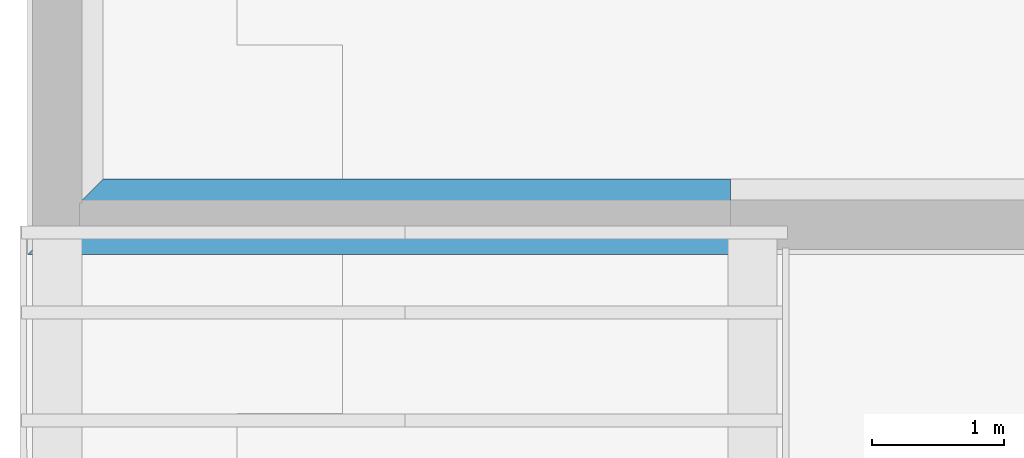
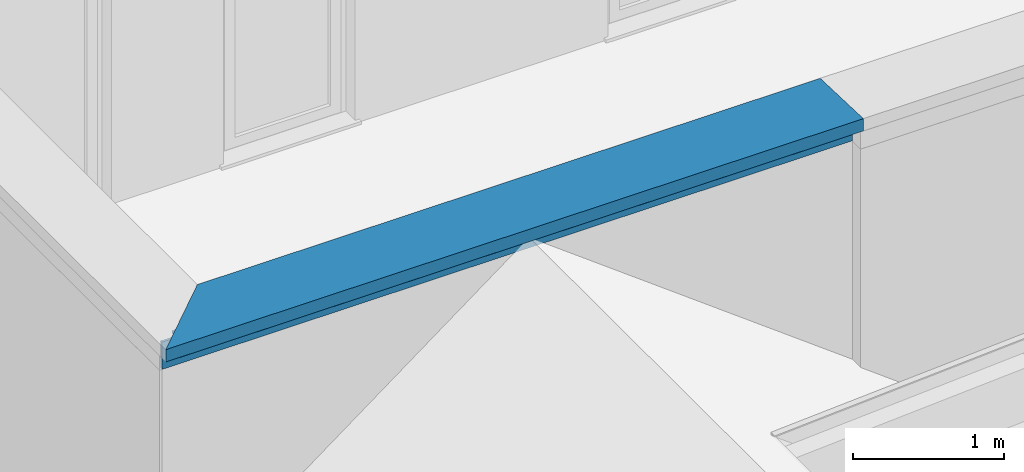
# One storey, part 2 of 15: 1 beam.
"""IFC4 building model written with IfcOpenShell, lengths in metres."""

from ifc_helpers import new_model, entity, si_unit, converted_unit, derived_unit, direction, frame, origin_with_axes, place, context, subcontext, project, spatial, triangles, material, constituent, constituent_set, type_object, element, save


model = new_model("IFC4")

# Units and contexts
model_context = context("Model", 3, precision=1e-05, world=origin_with_axes(), true_north=direction((-0.526213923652, 0.850352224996)))
body_context = subcontext(model_context, "Body", "Model", "MODEL_VIEW")
ifc_project = project(units=[si_unit("LENGTHUNIT", "METRE"), si_unit("AREAUNIT", "SQUARE_METRE"), si_unit("VOLUMEUNIT", "CUBIC_METRE"), converted_unit("PLANEANGLEUNIT", "DEGREE", entity("IfcPlaneAngleMeasure", 0.0174532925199), si_unit("PLANEANGLEUNIT", "RADIAN"), dimensions=[0, 0, 0, 0, 0, 0, 0]), si_unit("SOLIDANGLEUNIT", "STERADIAN"), converted_unit("TIMEUNIT", "Year", entity("IfcTimeMeasure", 31556926.0), si_unit("TIMEUNIT", "SECOND"), dimensions=[0, 0, 1, 0, 0, 0, 0]), si_unit("MASSUNIT", "GRAM", prefix="KILO"), si_unit("THERMODYNAMICTEMPERATUREUNIT", "DEGREE_CELSIUS"), si_unit("LUMINOUSINTENSITYUNIT", "LUMEN"), si_unit("ENERGYUNIT", "JOULE", prefix="MEGA"), derived_unit("THERMALCONDUCTANCEUNIT", [(si_unit("POWERUNIT", "WATT"), 1), (si_unit("LENGTHUNIT", "METRE"), -1), (si_unit("THERMODYNAMICTEMPERATUREUNIT", "KELVIN"), -1)]), derived_unit("SPECIFICHEATCAPACITYUNIT", [(si_unit("ENERGYUNIT", "JOULE"), 1), (si_unit("MASSUNIT", "GRAM", prefix="KILO"), -1), (si_unit("THERMODYNAMICTEMPERATUREUNIT", "KELVIN"), -1)]), derived_unit("MASSDENSITYUNIT", [(si_unit("MASSUNIT", "GRAM", prefix="KILO"), 1), (si_unit("VOLUMEUNIT", "CUBIC_METRE"), -1)])], contexts=[model_context])

# Site, building, storey, space
site_placement = place(None, origin_with_axes())
site = spatial("IfcSite", under=ifc_project, at=site_placement, Name="Gelände", CompositionType="ELEMENT")
building_placement = place(site_placement, origin_with_axes())
building = spatial("IfcBuilding", under=site, at=building_placement, Name="Haus vom Nikolaus", CompositionType="ELEMENT")
storey_placement = place(building_placement, frame((0.0, 0.0, 3.75), z_axis=(0.0, 0.0, 1.0), x_axis=(1.0, 0.0, 0.0)))
storey = spatial("IfcBuildingStorey", under=building, at=storey_placement, Name="1. OG", CompositionType="ELEMENT", Elevation=3.75)
space_placement = place(storey_placement, frame((-0.115002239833, 5.36483188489, 0.0), z_axis=(0.0, 0.0, 1.0), x_axis=(-1.0, 0.0, 0.0)))
space = spatial("IfcSpace", under=storey, at=space_placement, Name="OG", CompositionType="ELEMENT")

# Beam
ifc_material_1 = material(Name="Verputz, Kalkzement")
ifc_constituent_1 = constituent(ifc_material_1, Name="Component 1")
ifc_material_2 = material(Name="Holz, Bauholz")
ifc_constituent_2 = constituent(ifc_material_2, Name="Component 2")
ifc_material_3 = material(Name="Dämmung, hart XPS")
ifc_constituent_3 = constituent(ifc_material_3, Name="Component 3")
ifc_material_4 = material(Name="Holz, Brettschichtholz")
ifc_constituent_4 = constituent(ifc_material_4, Name="Component 4")
ifc_material_5 = material(Name="MW Kalksandstein")
ifc_constituent_5 = constituent(ifc_material_5, Name="Component 5")
ifc_constituent_6 = constituent(ifc_material_2, Name="Component 6")
ifc_constituent_7 = constituent(ifc_material_3, Name="Component 7")
ifc_material_6 = material(Name="Holz, Spanplatte")
ifc_constituent_8 = constituent(ifc_material_6, Name="Component 8")
ifc_material_7 = material(Name="Metall, Stahl verzinkt")
ifc_constituent_9 = constituent(ifc_material_7, Name="Component 9")
ifc_constituent_set = constituent_set(constituents=[ifc_constituent_1, ifc_constituent_2, ifc_constituent_3, ifc_constituent_4, ifc_constituent_5, ifc_constituent_6, ifc_constituent_7, ifc_constituent_8, ifc_constituent_9], Name="Bauteil - Attika Mauerwerk Giebelwand")
beam_type = type_object("IfcBeamType", Name="Bauteil - Attika Mauerwerk Giebelwand 574 x 270", PredefinedType="NOTDEFINED")
beam_placement = place(space_placement, frame((-5.30538428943, -2.10000010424, 2.81999999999), z_axis=(0.0, 0.0, 1.0), x_axis=(1.0, 0.0, 0.0)))
element("IfcBeam", 1, at=beam_placement, inside=space, type_object=beam_type, material=ifc_constituent_set, Name="Attika-Wand-015", ObjectType="Bauteil - Attika Mauerwerk Giebelwand 574 x 270", context=body_context, shape_type="Tessellation", body=[
    triangles([(5.28538449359, 0.07, 0.238724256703), (5.28538449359, 0.0500000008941, 0.230908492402), (5.28538449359, 0.07, 0.230908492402), (5.28538449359, 0.0500000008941, 0.238724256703), (0.0, 0.0500000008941, 0.240000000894), (5.28538449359, 0.0500000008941, 0.228597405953), (0.0, 0.0500000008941, 0.08), (5.28538449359, 0.0500000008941, 0.23999999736), (5.28538449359, 0.0500000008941, 0.080000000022), (5.28538449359, 0.07, 0.228597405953), (5.28540313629, 0.07, 0.248952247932), (0.0, 0.07, 0.300000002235), (5.28540794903, 0.07, 0.251263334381), (5.28538449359, 0.07, 0.23999999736), (0.0, 0.07, 0.08), (5.28538449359, 0.07, 0.080000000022), (5.28542432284, 0.07, 0.259126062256), (5.28550944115, 0.07, 0.300000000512), (5.28542432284, 0.0500398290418, 0.259126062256), (0.0, 0.0501249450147, 0.300000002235), (5.28550944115, 0.0501249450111, 0.300000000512), (5.28540794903, 0.0500234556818, 0.251263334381), (5.28540313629, 0.0500186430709, 0.248952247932)], [[1, 2, 3], [2, 1, 4], [5, 6, 2], [7, 6, 5], [5, 2, 4], [5, 4, 8], [6, 7, 9], [2, 10, 3], [2, 6, 10], [11, 12, 13], [1, 12, 14], [14, 12, 11], [3, 12, 1], [10, 12, 3], [12, 10, 15], [15, 10, 16], [17, 12, 18], [12, 17, 13], [8, 1, 14], [8, 4, 1], [9, 10, 6], [10, 9, 16], [5, 19, 20], [20, 19, 21], [22, 19, 5], [23, 5, 8], [22, 5, 23], [12, 5, 20], [5, 15, 7], [5, 12, 15], [16, 7, 15], [16, 9, 7], [22, 11, 13], [22, 23, 11], [14, 23, 8], [23, 14, 11], [20, 18, 12], [18, 20, 21], [21, 17, 18], [21, 19, 17], [19, 13, 17], [19, 22, 13]], closed=True),
    triangles([(5.17550944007, 0.0101249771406, 0.320551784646), (5.17550944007, 0.0698897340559, 0.320551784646), (5.17550944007, 0.0501249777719, 0.321948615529), (5.17550944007, 0.069882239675, 0.321948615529), (5.19526300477, 0.069878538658, 0.322638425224), (0.0, 0.0101249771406, 0.320551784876), (0.0, 0.069878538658, 0.322638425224), (5.17550944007, 0.0101249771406, 0.315979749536), (5.17550944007, 0.0699142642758, 0.315979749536), (5.17550944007, 0.0699578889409, 0.307848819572), (0.0, 0.07, 0.300000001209), (5.17550944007, 0.07, 0.300000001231), (0.0, 0.0101249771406, 0.300000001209), (5.17550944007, 0.0101249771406, 0.307848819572), (5.17550944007, 0.0101249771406, 0.300000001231)], [[1, 2, 3], [3, 2, 4], [4, 5, 3], [6, 1, 3], [5, 7, 3], [6, 3, 7], [8, 2, 1], [8, 9, 2], [9, 7, 2], [7, 5, 4], [10, 7, 9], [7, 10, 11], [12, 11, 10], [2, 7, 4], [11, 6, 7], [11, 13, 6], [14, 6, 13], [6, 8, 1], [6, 14, 8], [14, 13, 15], [14, 9, 8], [14, 10, 9], [15, 10, 14], [15, 12, 10], [13, 12, 15], [13, 11, 12]], closed=True),
    triangles([(5.12538446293, 0.0, 0.228597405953), (0.0, 0.0, 0.24), (0.0, 0.0, 0.08), (5.12538446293, 0.0, 0.238724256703), (5.12538446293, 0.0, 0.240000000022), (5.12538446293, 0.0, 0.230908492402), (5.12538446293, 0.0, 0.080000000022), (5.12538446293, 0.05, 0.240000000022), (5.12538446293, 0.05, 0.238724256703), (0.0, 0.05, 0.24), (0.0, 0.05, 0.08), (5.12538446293, 0.05, 0.080000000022), (5.12538446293, 0.05, 0.228597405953), (5.12538446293, 0.05, 0.230908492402)], [[1, 2, 3], [2, 4, 5], [6, 2, 1], [7, 1, 3], [2, 6, 4], [4, 8, 5], [4, 9, 8], [10, 5, 8], [10, 2, 5], [2, 11, 3], [2, 10, 11], [3, 12, 7], [3, 11, 12], [12, 1, 7], [1, 12, 13], [1, 14, 6], [1, 13, 14], [6, 9, 4], [6, 14, 9], [13, 10, 14], [14, 10, 9], [10, 13, 11], [11, 13, 12], [9, 10, 8]], closed=True),
    triangles([(0.0, -0.2, 0.24), (4.92538446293, -0.2, 0.259126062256), (0.0, -0.2, 0.300000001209), (4.92538446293, -0.2, 0.300000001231), (4.92538446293, -0.2, 0.251263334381), (4.92538446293, -0.2, 0.248952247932), (4.92538446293, -0.2, 0.240000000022), (4.92538446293, -0.12, 0.300000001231), (4.92538446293, 0.0500398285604, 0.259126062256), (4.92538446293, 0.0101249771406, 0.300000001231), (4.92538446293, -0.18, 0.300000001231), (4.92538446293, 0.0501249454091, 0.300000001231), (0.0, -0.18, 0.300000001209), (0.0, 0.05, 0.24), (0.0, -0.12, 0.300000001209), (0.0, 0.0101249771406, 0.300000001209), (0.0, 0.0501249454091, 0.300000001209), (4.92538446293, 0.05, 0.240000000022), (4.92538446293, 0.050018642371, 0.248952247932), (4.92538446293, 0.0500234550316, 0.251263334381)], [[1, 2, 3], [3, 2, 4], [5, 2, 1], [6, 1, 7], [5, 1, 6], [8, 9, 10], [2, 11, 4], [8, 11, 2], [10, 9, 12], [9, 8, 2], [13, 4, 11], [13, 3, 4], [14, 1, 15], [14, 16, 17], [14, 15, 16], [13, 15, 1], [13, 1, 3], [1, 18, 7], [1, 14, 18], [18, 6, 7], [6, 18, 19], [19, 5, 6], [5, 19, 20], [20, 2, 5], [2, 20, 9], [14, 9, 20], [17, 9, 14], [14, 20, 19], [14, 19, 18], [9, 17, 12], [17, 10, 12], [17, 16, 10], [16, 8, 10], [16, 15, 8], [15, 11, 8], [15, 13, 11]], closed=True),
    triangles([(4.92538446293, -0.2, 0.228597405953), (0.0, -0.2, 0.24), (0.0, -0.2, 0.08), (4.92538446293, -0.2, 0.238724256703), (4.92538446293, -0.2, 0.240000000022), (4.92538446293, -0.2, 0.230908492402), (4.92538446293, -0.2, 0.0800000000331), (4.92538446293, 0.0, 0.240000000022), (4.92538446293, 0.0, 0.238724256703), (0.0, 0.0, 0.24), (0.0, 0.0, 0.08), (4.92538446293, 0.0, 0.0800000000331), (4.92538446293, 0.0, 0.228597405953), (4.92538446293, 0.0, 0.230908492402)], [[1, 2, 3], [2, 4, 5], [6, 4, 2], [1, 3, 7], [6, 2, 1], [4, 8, 5], [4, 9, 8], [10, 5, 8], [10, 2, 5], [10, 3, 2], [3, 10, 11], [3, 12, 7], [3, 11, 12], [7, 13, 1], [7, 12, 13], [1, 14, 6], [1, 13, 14], [6, 9, 4], [6, 14, 9], [13, 10, 14], [14, 10, 9], [10, 13, 11], [11, 13, 12], [9, 10, 8]], closed=True),
    triangles([(4.94538446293, -0.18, 0.300000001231), (4.94532213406, -0.180062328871, 0.307848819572), (0.0, -0.18, 0.300000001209), (4.94527423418, -0.180110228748, 0.313880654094), (0.0, -0.180110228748, 0.313880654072), (4.94527423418, -0.12, 0.313880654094), (4.94532213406, -0.12, 0.307848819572), (5.00538446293, -0.12, 0.315979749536), (0.0, -0.12, 0.315979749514), (0.0, -0.12, 0.300000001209), (4.94538446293, -0.12, 0.300000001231)], [[1, 2, 3], [3, 4, 5], [4, 3, 2], [6, 2, 7], [2, 6, 4], [8, 9, 4], [5, 4, 9], [10, 5, 9], [10, 3, 5], [3, 11, 1], [3, 10, 11], [1, 7, 2], [1, 11, 7], [7, 10, 6], [11, 10, 7], [9, 6, 10], [9, 8, 6], [6, 8, 4]], closed=True),
    triangles([(4.81510151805, -0.31028294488, 0.228597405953), (0.0, -0.31028294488, 0.300000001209), (0.0, -0.31028294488, 0.08), (4.81510151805, -0.31028294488, 0.259126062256), (4.81510151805, -0.31028294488, 0.300000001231), (4.81510151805, -0.31028294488, 0.251263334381), (4.81510151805, -0.31028294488, 0.080000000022), (4.81510151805, -0.31028294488, 0.230908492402), (4.81510151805, -0.31028294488, 0.238724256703), (4.81510151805, -0.31028294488, 0.240000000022), (4.81510151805, -0.31028294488, 0.248952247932), (4.81510151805, -0.2, 0.300000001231), (4.81510151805, -0.2, 0.259126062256), (0.0, -0.2, 0.300000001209), (0.0, -0.2, 0.08), (4.81510151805, -0.2, 0.080000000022), (4.81510151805, -0.2, 0.228597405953), (4.81510151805, -0.2, 0.230908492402), (4.81510151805, -0.2, 0.238724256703), (4.81510151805, -0.2, 0.240000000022), (4.81510151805, -0.2, 0.248952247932), (4.81510151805, -0.2, 0.251263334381)], [[1, 2, 3], [2, 4, 5], [6, 4, 2], [1, 3, 7], [8, 2, 1], [9, 2, 8], [10, 2, 9], [11, 2, 10], [6, 2, 11], [4, 12, 5], [4, 13, 12], [14, 5, 12], [14, 2, 5], [15, 2, 14], [2, 15, 3], [3, 16, 7], [3, 15, 16], [7, 17, 1], [7, 16, 17], [1, 18, 8], [1, 17, 18], [8, 19, 9], [8, 18, 19], [9, 20, 10], [9, 19, 20], [10, 21, 11], [10, 20, 21], [11, 22, 6], [11, 21, 22], [6, 13, 4], [6, 22, 13], [21, 14, 22], [22, 14, 13], [20, 14, 21], [19, 14, 20], [18, 14, 19], [17, 14, 18], [14, 17, 15], [15, 17, 16], [13, 14, 12]], closed=True),
    triangles([(4.7710460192, -0.354338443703, 0.327839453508), (4.7710460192, 0.216356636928, 0.327839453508), (5.34102060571, 0.215636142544, 0.348471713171), (4.77104901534, 0.216359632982, 0.327753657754), (0.0, 0.216359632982, 0.327753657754), (0.0, 0.215636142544, 0.348471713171), (0.0, -0.354338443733, 0.327839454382), (4.77117872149, 0.109996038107, 0.324039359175), (4.77117872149, -0.354205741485, 0.324039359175), (0.0, 0.069878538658, 0.322638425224), (4.77122764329, 0.069878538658, 0.322638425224), (0.0, 0.0101249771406, 0.320551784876), (0.0, -0.353640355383, 0.30784881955), (4.77130051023, -0.354083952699, 0.320551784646), (4.77146016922, -0.353924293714, 0.315979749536), (4.77122764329, -0.354156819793, 0.322638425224), (4.77125173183, -0.354132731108, 0.321948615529), (4.77174411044, -0.353640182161, 0.307848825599), (4.77125173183, 0.0501249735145, 0.321948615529), (4.77130051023, 0.0101249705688, 0.320551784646), (4.77146016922, -0.120800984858, 0.315979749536)], [[1, 2, 3], [4, 5, 2], [6, 3, 2], [6, 2, 5], [1, 6, 7], [6, 1, 3], [2, 1, 8], [2, 8, 4], [9, 8, 1], [5, 8, 10], [10, 8, 11], [4, 8, 5], [7, 6, 12], [12, 6, 10], [7, 12, 13], [10, 6, 5], [14, 13, 15], [16, 13, 17], [17, 13, 14], [9, 13, 16], [1, 13, 9], [13, 1, 7], [15, 13, 18], [8, 9, 11], [16, 11, 9], [10, 19, 12], [12, 19, 20], [11, 19, 10], [12, 21, 13], [13, 21, 18], [21, 12, 20], [21, 15, 18], [20, 14, 21], [15, 21, 14], [19, 17, 20], [14, 20, 17], [11, 16, 19], [17, 19, 16]], closed=True),
    triangles([(5.34189531, 0.216510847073, 0.324039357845), (5.3418952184, 0.217859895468, 0.322638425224), (5.34189531, 0.217859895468, 0.324039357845), (5.3418952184, 0.216510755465, 0.322638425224), (0.0, 0.217859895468, 0.249909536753), (5.30447474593, 0.217859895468, 0.348504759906), (5.33997599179, 0.217859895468, 0.251263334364), (5.34189106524, 0.217859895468, 0.259126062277), (0.0, 0.217859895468, 0.349908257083), (5.34189055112, 0.217859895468, 0.251263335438), (5.34132979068, 0.217859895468, 0.249909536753), (5.34189373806, 0.217859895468, 0.300000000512), (5.34324435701, 0.217859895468, 0.349908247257), (5.34189690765, 0.217859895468, 0.348471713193), (5.34189690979, 0.217859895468, 0.348504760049), (5.3418955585, 0.217859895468, 0.327839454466), (5.34189517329, 0.217859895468, 0.321948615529), (5.34189478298, 0.217859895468, 0.315979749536), (5.34189508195, 0.217859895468, 0.320551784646), (5.3418942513, 0.217859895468, 0.307848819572), (5.3418955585, 0.216511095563, 0.327839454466), (5.33997599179, 0.216506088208, 0.251263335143), (5.30447474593, 0.216512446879, 0.348504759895), (0.0, 0.216506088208, 0.251263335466), (5.34189517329, 0.216510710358, 0.321948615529), (5.34189690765, 0.216512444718, 0.348471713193), (5.34189690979, 0.216512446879, 0.348504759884), (0.0, 0.216512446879, 0.348504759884), (5.34189106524, 0.216506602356, 0.259126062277), (5.34189373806, 0.216509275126, 0.300000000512), (5.34189055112, 0.216506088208, 0.251263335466), (5.34189508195, 0.216510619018, 0.320551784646), (5.3418942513, 0.216509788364, 0.307848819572), (5.34189478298, 0.21651032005, 0.315979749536), (5.34228707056, 0.216902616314, 0.248952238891), (5.33997599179, 0.2145915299, 0.251263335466), (0.0, 0.216902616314, 0.248952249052), (0.0, 0.207733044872, 0.258121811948), (0.0, 0.208643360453, 0.259126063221), (0.0, -0.355692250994, 0.229554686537), (0.0, -0.354338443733, 0.230908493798), (0.0, -0.35473497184, 0.228597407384), (0.0, -0.355692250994, 0.329145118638), (0.0, 0.215636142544, 0.348471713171), (0.0, -0.354338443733, 0.327839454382), (0.0, -0.345518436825, 0.237813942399), (0.0, -0.346522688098, 0.238724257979), (4.76969221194, -0.355692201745, 0.32914511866), (5.30356187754, 0.178177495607, 0.348471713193), (5.30447474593, 0.179090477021, 0.348504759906), (5.30356187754, 0.215636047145, 0.348471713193), (5.3331175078, 0.209647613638, 0.258121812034), (5.33402782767, 0.208643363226, 0.259126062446), (5.3331175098, 0.207733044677, 0.258121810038), (4.76969221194, -0.354338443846, 0.327839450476), (4.76969221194, -0.318268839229, 0.32914511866), (4.76969221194, -0.354338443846, 0.307848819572), (4.76969221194, -0.354338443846, 0.315979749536), (4.76969221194, -0.354338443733, 0.238724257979), (4.76969221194, -0.354338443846, 0.230908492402), (4.76969221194, -0.354338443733, 0.240000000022), (4.76969221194, -0.354338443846, 0.324039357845), (4.76969221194, -0.354338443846, 0.322638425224), (4.76969221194, -0.354338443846, 0.321948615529), (4.76969221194, -0.354338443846, 0.320551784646), (4.76969221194, -0.354338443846, 0.300000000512), (4.76969221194, -0.354338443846, 0.259126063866), (4.76969221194, -0.354338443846, 0.251263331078), (4.76969221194, -0.354338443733, 0.248952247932), (4.77886177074, -0.346522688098, 0.238724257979), (4.77104601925, -0.354338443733, 0.230908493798), (4.77795146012, -0.345518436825, 0.237813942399), (4.76969221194, -0.35242388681, 0.230908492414), (4.77104601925, -0.352423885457, 0.230908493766), (4.77064949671, -0.35473497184, 0.228597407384), (4.76969221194, -0.353777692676, 0.229554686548), (4.76969221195, -0.355692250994, 0.229554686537), (4.76969221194, -0.355692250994, 0.251263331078), (4.76969221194, -0.355692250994, 0.248952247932), (4.76969221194, -0.355692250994, 0.240000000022), (4.76969221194, -0.355692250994, 0.259126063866), (4.76969221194, -0.355692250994, 0.300000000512), (4.76969221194, -0.355692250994, 0.307848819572), (4.76969221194, -0.355692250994, 0.315979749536), (4.76969221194, -0.355692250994, 0.320551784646), (4.76969221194, -0.355692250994, 0.321948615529), (4.76969221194, -0.355692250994, 0.322638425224), (4.76969221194, -0.355692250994, 0.324039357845), (4.76969221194, -0.355692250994, 0.327839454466), (4.76969221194, -0.355692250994, 0.238724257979), (4.76969221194, -0.355692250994, 0.230908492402)], [[1, 2, 3], [1, 4, 2], [5, 6, 7], [6, 8, 7], [6, 5, 9], [7, 8, 10], [5, 7, 11], [8, 6, 12], [13, 6, 9], [14, 6, 15], [3, 6, 16], [14, 16, 6], [2, 6, 3], [17, 6, 2], [18, 6, 19], [17, 19, 6], [20, 6, 18], [6, 20, 12], [21, 3, 16], [21, 1, 3], [22, 23, 24], [23, 25, 4], [23, 1, 21], [23, 4, 1], [23, 21, 26], [23, 26, 27], [24, 23, 28], [29, 23, 22], [30, 23, 29], [31, 29, 22], [32, 25, 23], [33, 23, 30], [34, 23, 33], [32, 23, 34], [4, 17, 2], [4, 25, 17], [30, 8, 12], [30, 29, 8], [29, 10, 8], [29, 31, 10], [22, 10, 31], [22, 7, 10], [22, 35, 11], [35, 22, 36], [22, 11, 7], [37, 11, 35], [11, 37, 5], [24, 38, 39], [24, 37, 38], [40, 41, 42], [43, 44, 45], [9, 5, 28], [28, 5, 24], [37, 24, 5], [44, 9, 28], [43, 9, 44], [41, 43, 45], [46, 42, 41], [47, 46, 41], [43, 41, 40], [48, 9, 43], [49, 9, 48], [50, 9, 49], [9, 50, 13], [23, 6, 13], [23, 13, 50], [23, 15, 6], [15, 23, 27], [27, 14, 15], [27, 26, 14], [26, 16, 14], [26, 21, 16], [25, 19, 17], [25, 32, 19], [32, 18, 19], [32, 34, 18], [34, 20, 18], [34, 33, 20], [33, 12, 20], [33, 30, 12], [28, 51, 44], [51, 28, 23], [52, 39, 53], [39, 52, 24], [24, 52, 22], [22, 52, 36], [54, 36, 52], [54, 37, 36], [36, 37, 35], [54, 38, 37], [53, 39, 54], [38, 54, 39], [55, 45, 56], [44, 56, 45], [56, 44, 51], [57, 45, 58], [41, 59, 60], [61, 59, 41], [62, 45, 55], [63, 45, 62], [64, 45, 63], [65, 45, 64], [58, 45, 65], [66, 45, 57], [67, 45, 66], [45, 67, 41], [68, 41, 67], [69, 41, 68], [61, 41, 69], [70, 47, 60], [70, 60, 71], [41, 60, 47], [47, 72, 46], [72, 47, 70], [46, 73, 42], [73, 72, 74], [75, 42, 76], [42, 73, 76], [73, 46, 72], [42, 77, 40], [77, 42, 75], [78, 40, 79], [79, 40, 80], [81, 40, 78], [40, 81, 43], [43, 81, 82], [43, 82, 83], [43, 83, 84], [43, 84, 85], [43, 85, 86], [43, 86, 87], [43, 87, 88], [43, 88, 89], [43, 89, 48], [80, 40, 90], [91, 90, 40], [77, 91, 40], [56, 49, 48], [49, 56, 51], [23, 50, 51], [49, 51, 50], [52, 53, 54], [55, 48, 89], [48, 55, 56], [90, 60, 59], [60, 90, 91], [88, 55, 89], [55, 88, 62], [88, 63, 62], [88, 87, 63], [63, 86, 64], [63, 87, 86], [64, 85, 65], [64, 86, 85], [65, 84, 58], [65, 85, 84], [84, 57, 58], [84, 83, 57], [83, 66, 57], [83, 82, 66], [66, 81, 67], [66, 82, 81], [67, 78, 68], [67, 81, 78], [79, 68, 78], [68, 79, 69], [79, 61, 69], [79, 80, 61], [80, 59, 61], [80, 90, 59], [73, 71, 60], [71, 73, 74], [70, 74, 72], [74, 70, 71], [77, 60, 91], [60, 76, 73], [60, 77, 76], [77, 75, 76]], closed=True),
])

save(model, "model.ifc")
